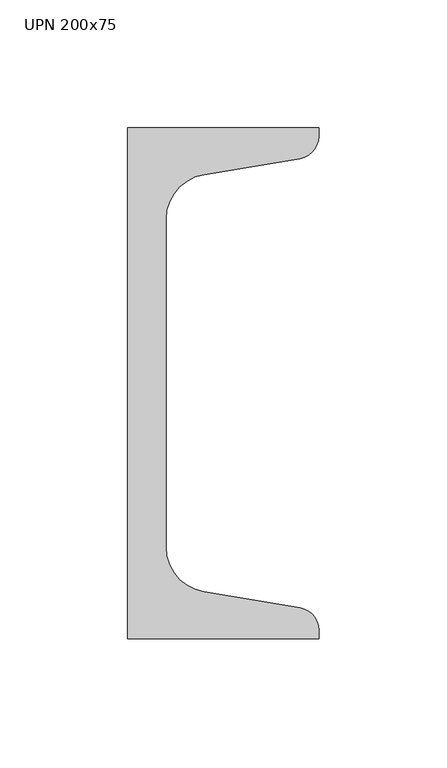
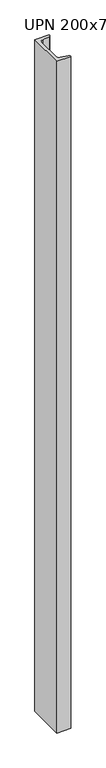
"""IFC4 building model written with IfcOpenShell, lengths in millimetres: column geometry, M_MC Shapes-Column : UPN 200x75."""

from ifc_helpers import new_model, si_unit, point, frame, frame_2d, origin, place, context, project, spatial, polyline, circle_curve, trimmed, segment, composite_curve, outline, extrude, source, transform, mapped, element, save


def upn_200x75_111d3a53(model_context):
    return source(origin(), model_context, "Body", "SweptSolid", [
        extrude(outline(composite_curve([segment(polyline([(-26.4, -100.0), (-26.4, 100.0), (48.6, 100.0), (48.6, 96.7227759)]), True, "CONTINUOUS"), segment(trimmed(circle_curve(frame_2d((39.7, 96.7227759)), 8.9), [point((48.6, 96.7227759))], [point((41.1631538, 87.9438705))], False, "CARTESIAN"), True, "CONTINUOUS"), segment(polyline([(41.1631538, 87.9438705), (3.4736923, 81.662281)]), True, "CONTINUOUS"), segment(trimmed(circle_curve(frame_2d((6.4, 64.1044701)), 17.8), [point((3.4736923, 81.662281))], [point((-11.4, 64.1044701))], True, "CARTESIAN"), True, "CONTINUOUS"), segment(polyline([(-11.4, 64.1044701), (-11.4, -64.1044701)]), True, "CONTINUOUS"), segment(trimmed(circle_curve(frame_2d((6.4, -64.1044701)), 17.8), [point((-11.4, -64.1044701))], [point((3.4736923, -81.662281))], True, "CARTESIAN"), True, "CONTINUOUS"), segment(polyline([(3.4736923, -81.662281), (41.1631538, -87.9438705)]), True, "CONTINUOUS"), segment(trimmed(circle_curve(frame_2d((39.7, -96.7227759)), 8.9), [point((41.1631538, -87.9438705))], [point((48.6, -96.7227759))], False, "CARTESIAN"), True, "CONTINUOUS"), segment(polyline([(48.6, -96.7227759), (48.6, -100.0), (-26.4, -100.0)]), True, "CONTINUOUS")], self_intersect=False)), frame((0.0, 0.0, 26160.0), z_axis=(0.0, 0.0, 1.0), x_axis=(1.0, 0.0, 0.0)), (0.0, 0.0, 1.0), 3750.0),
    ])


if __name__ == "__main__":
    model = new_model("IFC4")
    model_context = context("Model", 3, world=origin())
    ifc_project = project(units=[si_unit("LENGTHUNIT", "METRE", prefix="MILLI")], contexts=[model_context])
    site = spatial("IfcSite", under=ifc_project)
    building = spatial("IfcBuilding", under=site)
    placement = place(None, origin())
    upn_200x75_shape = upn_200x75_111d3a53(model_context)
    element("IfcColumn", 1, ObjectType="M_MC Shapes-Column : UPN 200x75", at=placement, inside=building, context=model_context, shape_type="MappedRepresentation", body=[
        mapped(upn_200x75_shape, transform((0.0, 0.0, 0.0), x_axis=(1.0, 0.0, 0.0), y_axis=(0.0, 1.0, 0.0), z_axis=(0.0, 0.0, 1.0))),
    ])
    save(model, "model.ifc")
